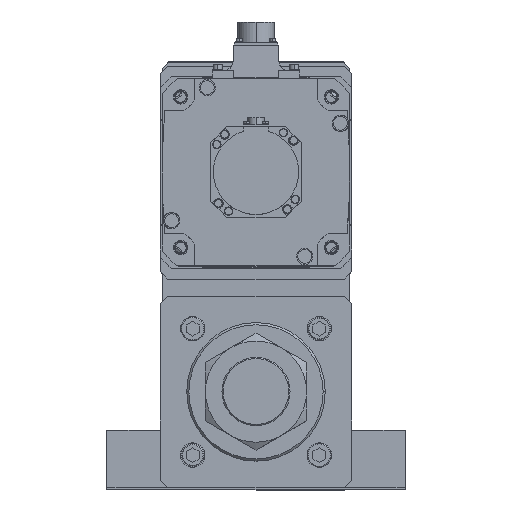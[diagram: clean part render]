
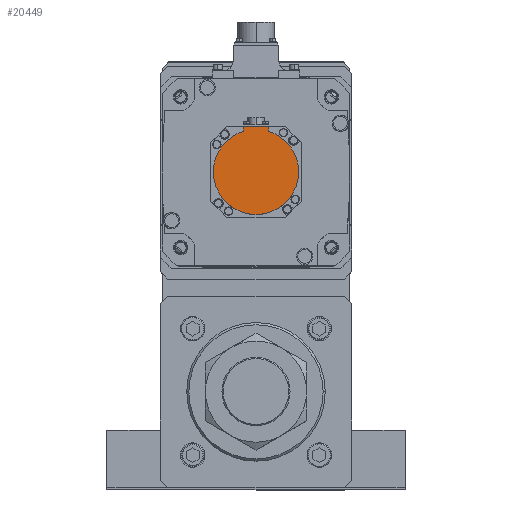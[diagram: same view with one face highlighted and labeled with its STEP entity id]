
A CAD part, top view. The second image highlights one B-rep face of the part: STEP entity #20449.
In plain terms, the highlighted planar face has unit normal (0, 0, 1) as drawn and (0, 0, -1) by its records, which use the part's own axes.
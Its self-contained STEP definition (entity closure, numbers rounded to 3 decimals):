
#2285 = LINE ( 'NONE', #9996, #36245 ) ;
#2403 = CIRCLE ( 'NONE', #51988, 40. ) ;
#2498 = VERTEX_POINT ( 'NONE', #52919 ) ;
#2560 = VECTOR ( 'NONE', #15945, 1000. ) ;
#2646 = EDGE_LOOP ( 'NONE', ( #21207, #52867, #11989, #18858, #40700, #25130 ) ) ;
#5419 = AXIS2_PLACEMENT_3D ( 'NONE', #24947, #13159, #13496 ) ;
#6216 = EDGE_CURVE ( 'NONE', #2498, #21097, #2285, .T. ) ;
#7292 = EDGE_CURVE ( 'NONE', #38367, #14622, #31000, .T. ) ;
#7511 = EDGE_CURVE ( 'NONE', #2498, #49848, #23904, .T. ) ;
#7669 = FACE_OUTER_BOUND ( 'NONE', #2646, .T. ) ;
#8022 = CARTESIAN_POINT ( 'NONE',  ( 0., 0., -178.5 ) ) ;
#8397 = DIRECTION ( 'NONE',  ( 0., 0., 1. ) ) ;
#9327 = CARTESIAN_POINT ( 'NONE',  ( -12., -38.158, -178.5 ) ) ;
#9996 = CARTESIAN_POINT ( 'NONE',  ( 0., -42.5, -178.5 ) ) ;
#10152 = AXIS2_PLACEMENT_3D ( 'NONE', #8022, #36711, #12331 ) ;
#10356 = CARTESIAN_POINT ( 'NONE',  ( 12., -38.158, -178.5 ) ) ;
#11989 = ORIENTED_EDGE ( 'NONE', *, *, #51814, .F. ) ;
#12331 = DIRECTION ( 'NONE',  ( 1., 0., 0. ) ) ;
#12715 = CARTESIAN_POINT ( 'NONE',  ( 0., 0., -178.5 ) ) ;
#13052 = VECTOR ( 'NONE', #45614, 1000. ) ;
#13108 = DIRECTION ( 'NONE',  ( 0., 0., 1. ) ) ;
#13159 = DIRECTION ( 'NONE',  ( 0., 0., 1. ) ) ;
#13496 = DIRECTION ( 'NONE',  ( 1., 0., 0. ) ) ;
#13519 = EDGE_CURVE ( 'NONE', #49848, #49621, #22723, .T. ) ;
#14622 = VERTEX_POINT ( 'NONE', #9327 ) ;
#15945 = DIRECTION ( 'NONE',  ( 0., 1., 0. ) ) ;
#16643 = CARTESIAN_POINT ( 'NONE',  ( 40., 0., -178.5 ) ) ;
#16898 = PLANE ( 'NONE',  #5419 ) ;
#18223 = DIRECTION ( 'NONE',  ( -1., 0., 0. ) ) ;
#18858 = ORIENTED_EDGE ( 'NONE', *, *, #13519, .F. ) ;
#20449 = ADVANCED_FACE ( 'NONE', ( #7669 ), #16898, .F. ) ;
#21097 = VERTEX_POINT ( 'NONE', #38334 ) ;
#21207 = ORIENTED_EDGE ( 'NONE', *, *, #27601, .T. ) ;
#22723 = CIRCLE ( 'NONE', #36399, 40. ) ;
#23904 = LINE ( 'NONE', #49888, #13052 ) ;
#24947 = CARTESIAN_POINT ( 'NONE',  ( 0., -1.249, -178.5 ) ) ;
#25130 = ORIENTED_EDGE ( 'NONE', *, *, #6216, .T. ) ;
#27601 = EDGE_CURVE ( 'NONE', #21097, #14622, #33302, .T. ) ;
#28478 = CARTESIAN_POINT ( 'NONE',  ( -12., -40.329, -178.5 ) ) ;
#31000 = CIRCLE ( 'NONE', #10152, 40. ) ;
#33302 = LINE ( 'NONE', #28478, #2560 ) ;
#33884 = CARTESIAN_POINT ( 'NONE',  ( -40., 0., -178.5 ) ) ;
#36245 = VECTOR ( 'NONE', #18223, 1000. ) ;
#36399 = AXIS2_PLACEMENT_3D ( 'NONE', #12715, #8397, #53074 ) ;
#36711 = DIRECTION ( 'NONE',  ( 0., 0., 1. ) ) ;
#38334 = CARTESIAN_POINT ( 'NONE',  ( -12., -42.5, -178.5 ) ) ;
#38367 = VERTEX_POINT ( 'NONE', #33884 ) ;
#40700 = ORIENTED_EDGE ( 'NONE', *, *, #7511, .F. ) ;
#45614 = DIRECTION ( 'NONE',  ( 0., 1., 0. ) ) ;
#46435 = DIRECTION ( 'NONE',  ( 1., 0., 0. ) ) ;
#49621 = VERTEX_POINT ( 'NONE', #16643 ) ;
#49848 = VERTEX_POINT ( 'NONE', #10356 ) ;
#49888 = CARTESIAN_POINT ( 'NONE',  ( 12., -1.249, -178.5 ) ) ;
#50355 = CARTESIAN_POINT ( 'NONE',  ( 0., 0., -178.5 ) ) ;
#51814 = EDGE_CURVE ( 'NONE', #49621, #38367, #2403, .T. ) ;
#51988 = AXIS2_PLACEMENT_3D ( 'NONE', #50355, #13108, #46435 ) ;
#52867 = ORIENTED_EDGE ( 'NONE', *, *, #7292, .F. ) ;
#52919 = CARTESIAN_POINT ( 'NONE',  ( 12., -42.5, -178.5 ) ) ;
#53074 = DIRECTION ( 'NONE',  ( 1., 0., 0. ) ) ;
